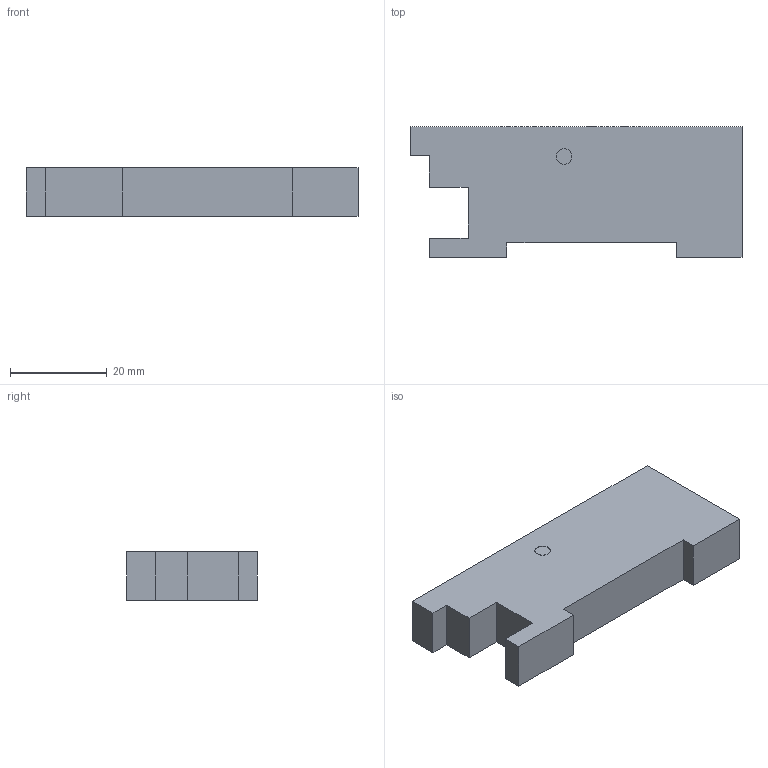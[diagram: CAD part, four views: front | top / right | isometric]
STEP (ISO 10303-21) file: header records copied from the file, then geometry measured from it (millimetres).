
FILE_DESCRIPTION (( 'STEP AP203' ), '1' );
FILE_NAME ('FX-CH2.STEP', '2005-10-26T05:57:54', ( '' ), ( '' ), 'SwSTEP 2.0', 'SolidWorks 2004073', '' );
FILE_SCHEMA (( 'CONFIG_CONTROL_DESIGN' ));
Length unit declared in the file: millimetre
Products named in the file (1): FX-CH2
Bounding box: 68.5 x 27 x 10 mm (x, y, z)
Volume: 14714.9 mm3; surface area: 5772.9 mm2
Topology: 1 solids, 1 shells, 34 faces, 84 edges, 56 vertices
Faces by surface type: plane 32, cylinder 2
Entity records: 1069 total; most frequent: CARTESIAN_POINT 175, ORIENTED_EDGE 168, DIRECTION 158, EDGE_CURVE 84, LINE 80, VECTOR 80, VERTEX_POINT 56, AXIS2_PLACEMENT_3D 39
